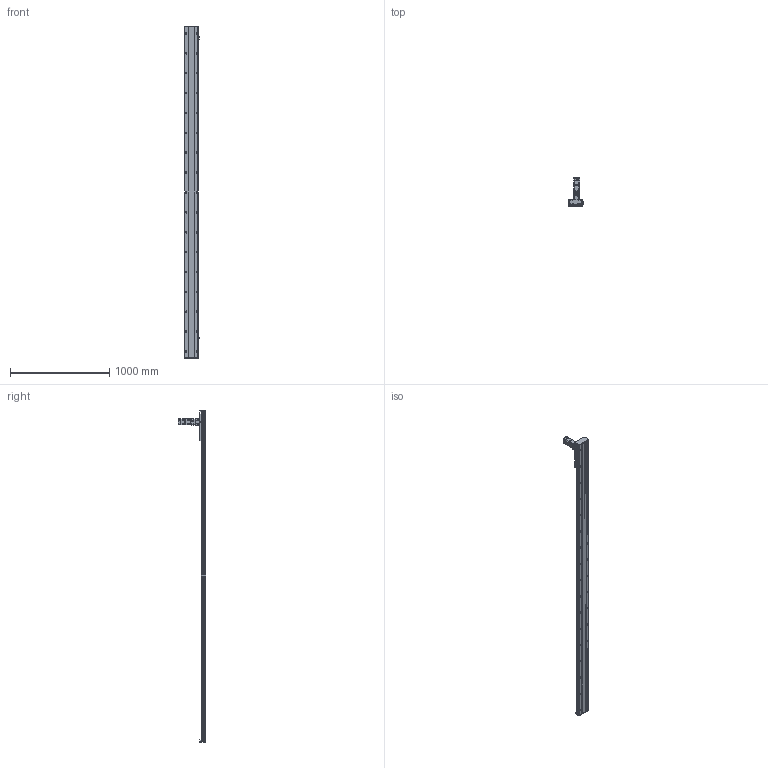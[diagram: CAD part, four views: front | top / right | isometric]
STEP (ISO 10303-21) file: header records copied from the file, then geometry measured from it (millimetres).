
FILE_DESCRIPTION (( 'STEP AP214' ), '1' );
FILE_NAME ('SHS140-S3000.STEP', '2022-12-05T08:44:21', ( '' ), ( '' ), 'SwSTEP 2.0', 'SolidWorks 2020', '' );
FILE_SCHEMA (( 'AUTOMOTIVE_DESIGN' ));
Length unit declared in the file: millimetre
Products named in the file (10): SB-62-3-P1-C20604_203.step; _SXR24-100_b.step; SGMJV-04ADA6E.step; SHS140____.step; 錨璃218^SHS140-S3000; SHS140-S3000.step; SHS140-S3000; SHS140______.step; SHS140-DZ-3000.step; EE-SX672.step
Assembly tree (16 placements, depth 3):
  SHS140-S3000
    SHS140-S3000.step
      SHS140-DZ-3000.step
      SHS140______.step
      SHS140____.step
      _SXR24-100_b.step  x6
      SB-62-3-P1-C20604_203.step
      SGMJV-04ADA6E.step
      EE-SX672.step  x3
    錨璃218^SHS140-S3000
Bounding box: 151.2 x 280.6 x 3340 mm (x, y, z)
Volume: 11293261.3 mm3; surface area: 3030198.9 mm2
Topology: 107 solids, 107 shells, 4430 faces, 11932 edges, 7763 vertices
Faces by surface type: plane 2380, cylinder 1333, bspline 406, cone 299, torus 12
Entity records: 134003 total; most frequent: CARTESIAN_POINT 47691, ORIENTED_EDGE 18470, DIRECTION 16324, EDGE_CURVE 9235, VERTEX_POINT 6043, VECTOR 5566, LINE 5566, AXIS2_PLACEMENT_3D 5379
